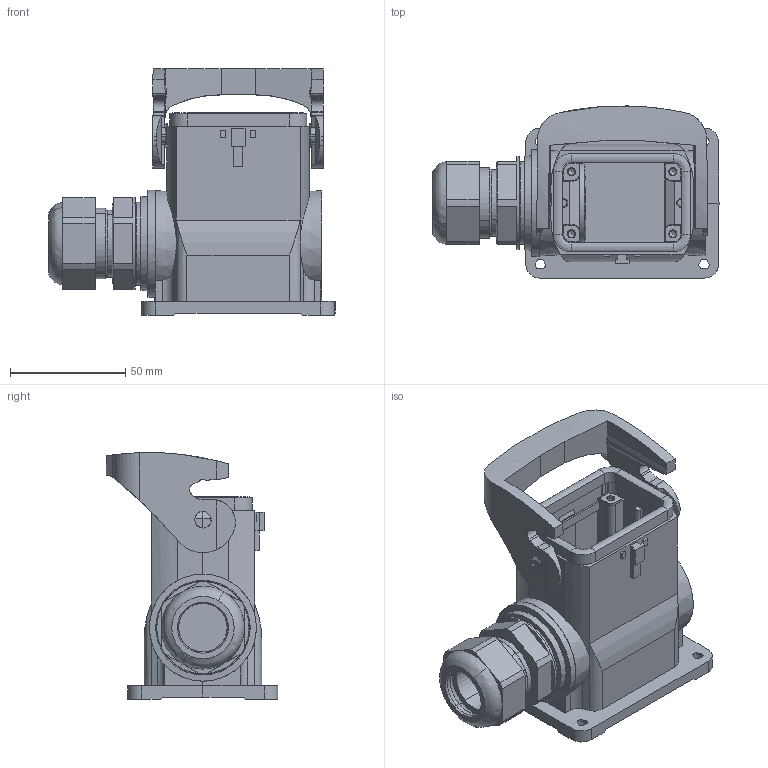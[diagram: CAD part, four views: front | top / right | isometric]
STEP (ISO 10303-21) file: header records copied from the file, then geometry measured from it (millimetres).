
FILE_DESCRIPTION(/* description */ (''),/* implementation_level */ '2;1');
FILE_NAME(/* name */ '100766249ugm000_b.stp',/* time_stamp */ '2022-03-12T07:01:39+01:00',/* author */ (''),/* organization */ (''),/* preprocessor_version */ 'ST-DEVELOPER v16.7',/* originating_system */ 'SIEMENS PLM Software NX 1911',/* authorisation */ '');
FILE_SCHEMA (('AUTOMOTIVE_DESIGN { 1 0 10303 214 3 1 1 1 }'));
Length unit declared in the file: millimetre
Products named in the file (1): 100766249ugm000_b
Bounding box: 124.05 x 74.48 x 107.09 mm (x, y, z)
Volume: 181055.4 mm3; surface area: 69250.4 mm2
Topology: 2 solids, 2 shells, 629 faces, 1867 edges, 1356 vertices
Faces by surface type: plane 355, cylinder 164, cone 78, bspline 16, revolution 10, torus 5, extrusion 1
Full cylindrical faces by diameter (mm): 3 x4, 3.4 x4, 3.5 x4, 7.2 x2, 30 x1, 32 x1, 36 x1, 46.4 x1
Entity records: 23149 total; most frequent: CARTESIAN_POINT 5453, ORIENTED_EDGE 3444, DIRECTION 3353, EDGE_CURVE 1722, VERTEX_POINT 1170, AXIS2_PLACEMENT_3D 1149, VECTOR 1045, LINE 1044
